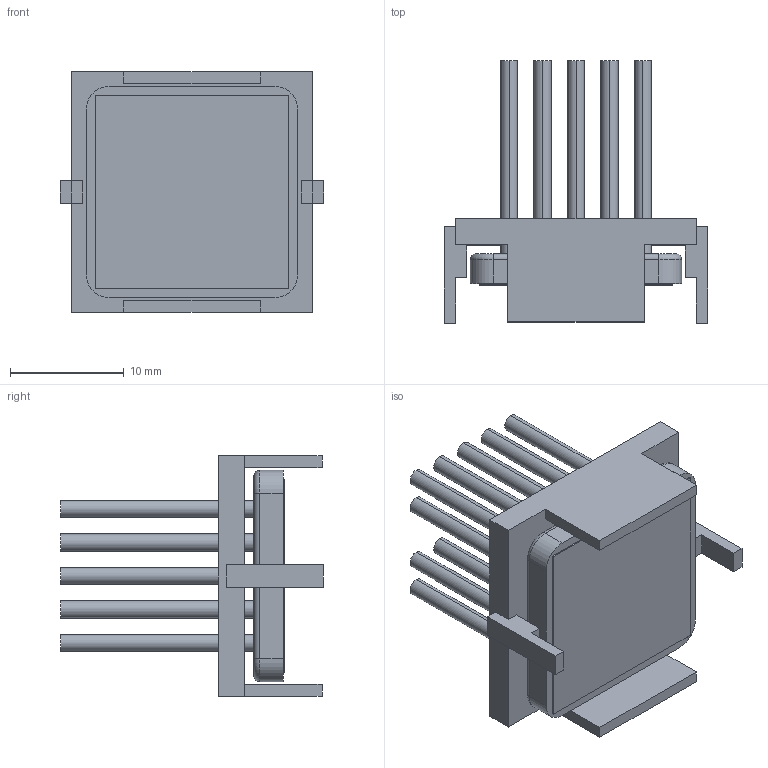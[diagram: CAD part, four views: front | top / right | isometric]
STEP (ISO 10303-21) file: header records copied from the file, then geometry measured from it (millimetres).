
FILE_DESCRIPTION (( 'STEP AP214' ), '1' );
FILE_NAME ('INM19002-20PCU-2.6Y.STEP', '2023-03-02T22:47:36', ( '' ), ( '' ), 'SwSTEP 2.0', 'SolidWorks 2020', '' );
FILE_SCHEMA (( 'AUTOMOTIVE_DESIGN' ));
Length unit declared in the file: millimetre
Products named in the file (1): INM19002-20PCU-2.6Y
Bounding box: 23.2 x 23.1 x 21.2 mm (x, y, z)
Volume: 2387.3 mm3; surface area: 4504.1 mm2
Topology: 3 solids, 3 shells, 133 faces, 310 edges, 204 vertices
Faces by surface type: plane 79, cylinder 50, torus 4
Entity records: 5323 total; most frequent: DIRECTION 682, CARTESIAN_POINT 648, ORIENTED_EDGE 620, EDGE_CURVE 310, AXIS2_PLACEMENT_3D 238, LINE 206, VECTOR 206, VERTEX_POINT 204
